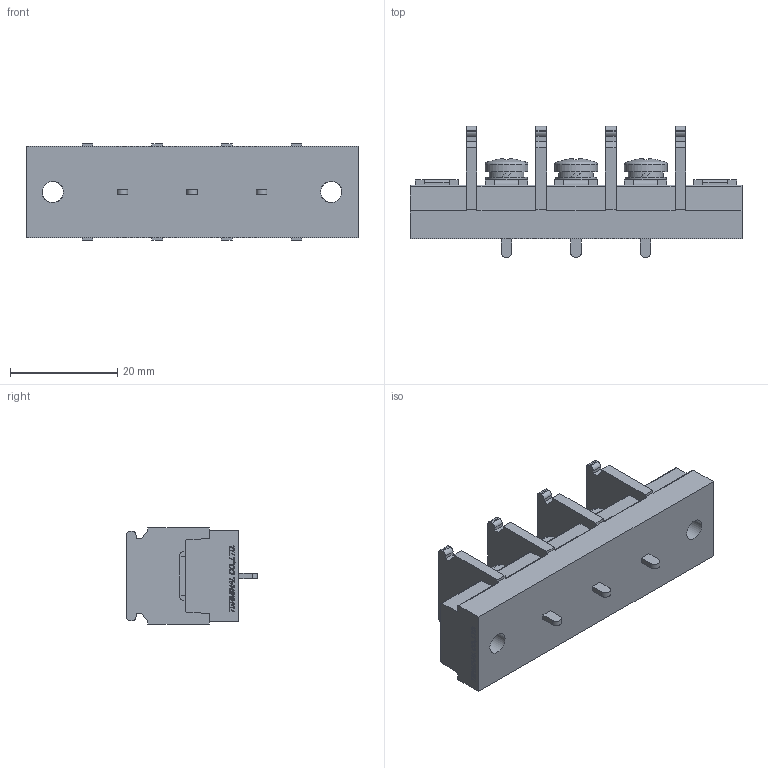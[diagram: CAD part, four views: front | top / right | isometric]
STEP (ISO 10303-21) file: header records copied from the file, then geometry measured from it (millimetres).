
FILE_DESCRIPTION(/* description */ ('Alibre Inc.'),/* implementation_level */ '2;1');
FILE_NAME(/* name */ 'export0',/* time_stamp */ '2016-08-02T19:20:29+09:00',/* author */ (''),/* organization */ (''),/* preprocessor_version */ 'ST-DEVELOPER v14',/* originating_system */ 'Alibre',/* authorisation */ '');
FILE_SCHEMA (('CONFIG_CONTROL_DESIGN'));
Length unit declared in the file: centimetre
Products named in the file (1): ID_1
Bounding box: 62 x 24.5 x 18 mm (x, y, z)
Volume: 11795.1 mm3; surface area: 6425.3 mm2
Topology: 1 solids, 36 shells, 1081 faces, 2837 edges, 1882 vertices
Faces by surface type: plane 784, bspline 208, cylinder 68, cone 15, sphere 3, torus 3
Full cylindrical faces by diameter (mm): 4 x7, 6.5 x3, 7.7 x3, 8 x3
Entity records: 31968 total; most frequent: CARTESIAN_POINT 7647, ORIENTED_EDGE 5610, DIRECTION 3474, EDGE_CURVE 2805, VECTOR 2120, LINE 2120, VERTEX_POINT 1869, EDGE_LOOP 1180
